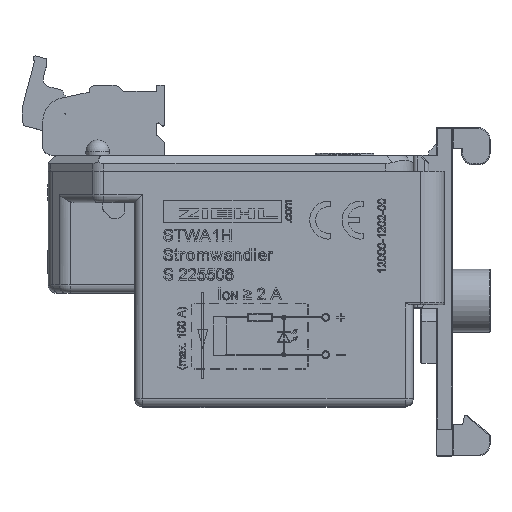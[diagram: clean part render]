
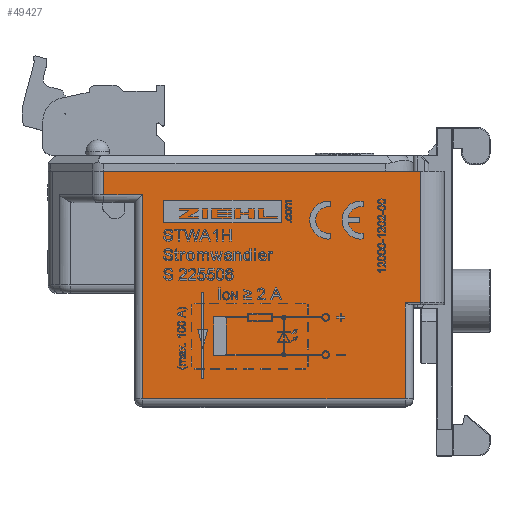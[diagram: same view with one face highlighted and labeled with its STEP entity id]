
A CAD part, top view. The second image highlights one B-rep face of the part: STEP entity #49427.
In plain terms, the highlighted planar face has unit normal (0, 0, 1).
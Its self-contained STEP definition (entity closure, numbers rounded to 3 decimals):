
#494 = ORIENTED_EDGE ( 'NONE', *, *, #3401, .T. ) ;
#3401 = EDGE_CURVE ( 'NONE', #45306, #21515, #4751, .T. ) ;
#4751 = LINE ( 'NONE', #30480, #33828 ) ;
#4880 = VERTEX_POINT ( 'NONE', #51737 ) ;
#6226 = CARTESIAN_POINT ( 'NONE',  ( -3.922, 27., 0. ) ) ;
#7294 = LINE ( 'NONE', #14089, #49978 ) ;
#7372 = DIRECTION ( 'NONE',  ( -1., 0., 0. ) ) ;
#8141 = ORIENTED_EDGE ( 'NONE', *, *, #39471, .F. ) ;
#11805 = CARTESIAN_POINT ( 'NONE',  ( 0., 30., 0. ) ) ;
#13525 = LINE ( 'NONE', #30154, #54408 ) ;
#14089 = CARTESIAN_POINT ( 'NONE',  ( 36.5, 30., 0. ) ) ;
#14119 = ORIENTED_EDGE ( 'NONE', *, *, #22362, .T. ) ;
#15969 = LINE ( 'NONE', #32412, #44984 ) ;
#17005 = CARTESIAN_POINT ( 'NONE',  ( 35.5, 1., 0. ) ) ;
#17669 = EDGE_CURVE ( 'NONE', #20022, #45306, #47574, .T. ) ;
#20022 = VERTEX_POINT ( 'NONE', #56073 ) ;
#20480 = LINE ( 'NONE', #11805, #49539 ) ;
#20519 = DIRECTION ( 'NONE',  ( 1., 0., 0. ) ) ;
#21515 = VERTEX_POINT ( 'NONE', #54681 ) ;
#22084 = EDGE_LOOP ( 'NONE', ( #494, #69474, #64283, #8141, #27255, #42742, #14119, #58854 ) ) ;
#22362 = EDGE_CURVE ( 'NONE', #74745, #20022, #70776, .T. ) ;
#24840 = EDGE_CURVE ( 'NONE', #52463, #69329, #27626, .T. ) ;
#27255 = ORIENTED_EDGE ( 'NONE', *, *, #24840, .T. ) ;
#27626 = LINE ( 'NONE', #60132, #70328 ) ;
#28589 = CARTESIAN_POINT ( 'NONE',  ( 36.5, 13.2, 0. ) ) ;
#30154 = CARTESIAN_POINT ( 'NONE',  ( 0., 27., 0. ) ) ;
#30388 = PLANE ( 'NONE',  #30456 ) ;
#30456 = AXIS2_PLACEMENT_3D ( 'NONE', #36293, #42094, #7372 ) ;
#30480 = CARTESIAN_POINT ( 'NONE',  ( 34.5, 30., 0. ) ) ;
#32412 = CARTESIAN_POINT ( 'NONE',  ( 0., 13.2, 0. ) ) ;
#33828 = VECTOR ( 'NONE', #42189, 1000. ) ;
#33983 = VECTOR ( 'NONE', #74848, 1000. ) ;
#34985 = DIRECTION ( 'NONE',  ( 0., -1., 0. ) ) ;
#36293 = CARTESIAN_POINT ( 'NONE',  ( 0., 30., 0. ) ) ;
#39178 = EDGE_CURVE ( 'NONE', #21515, #68667, #15969, .T. ) ;
#39471 = EDGE_CURVE ( 'NONE', #52463, #4880, #20480, .T. ) ;
#42094 = DIRECTION ( 'NONE',  ( 0., 0., -1. ) ) ;
#42189 = DIRECTION ( 'NONE',  ( 0., 1., 0. ) ) ;
#42742 = ORIENTED_EDGE ( 'NONE', *, *, #48460, .T. ) ;
#43376 = CARTESIAN_POINT ( 'NONE',  ( 34.5, 1., 0. ) ) ;
#44984 = VECTOR ( 'NONE', #20519, 1000. ) ;
#45306 = VERTEX_POINT ( 'NONE', #43376 ) ;
#47574 = LINE ( 'NONE', #17005, #33983 ) ;
#48460 = EDGE_CURVE ( 'NONE', #69329, #74745, #13525, .T. ) ;
#49427 = ADVANCED_FACE ( 'NONE', ( #64197 ), #30388, .F. ) ;
#49539 = VECTOR ( 'NONE', #58223, 1000. ) ;
#49978 = VECTOR ( 'NONE', #54691, 1000. ) ;
#50139 = CARTESIAN_POINT ( 'NONE',  ( -3.922, 30., 0. ) ) ;
#51737 = CARTESIAN_POINT ( 'NONE',  ( 36.5, 30., 0. ) ) ;
#52254 = CARTESIAN_POINT ( 'NONE',  ( 1., 30., 0. ) ) ;
#52463 = VERTEX_POINT ( 'NONE', #50139 ) ;
#54408 = VECTOR ( 'NONE', #65229, 1000. ) ;
#54681 = CARTESIAN_POINT ( 'NONE',  ( 34.5, 13.2, 0. ) ) ;
#54691 = DIRECTION ( 'NONE',  ( 0., 1., 0. ) ) ;
#55004 = EDGE_CURVE ( 'NONE', #68667, #4880, #7294, .T. ) ;
#55351 = VECTOR ( 'NONE', #34985, 1000. ) ;
#56073 = CARTESIAN_POINT ( 'NONE',  ( 1., 1., 0. ) ) ;
#58223 = DIRECTION ( 'NONE',  ( 1., 0., 0. ) ) ;
#58854 = ORIENTED_EDGE ( 'NONE', *, *, #17669, .T. ) ;
#60132 = CARTESIAN_POINT ( 'NONE',  ( -3.922, 26., 0. ) ) ;
#63681 = CARTESIAN_POINT ( 'NONE',  ( 1., 27., 0. ) ) ;
#64197 = FACE_OUTER_BOUND ( 'NONE', #22084, .T. ) ;
#64283 = ORIENTED_EDGE ( 'NONE', *, *, #55004, .T. ) ;
#65229 = DIRECTION ( 'NONE',  ( 1., 0., 0. ) ) ;
#65977 = DIRECTION ( 'NONE',  ( 0., -1., 0. ) ) ;
#68667 = VERTEX_POINT ( 'NONE', #28589 ) ;
#69329 = VERTEX_POINT ( 'NONE', #6226 ) ;
#69474 = ORIENTED_EDGE ( 'NONE', *, *, #39178, .T. ) ;
#70328 = VECTOR ( 'NONE', #65977, 1000. ) ;
#70776 = LINE ( 'NONE', #52254, #55351 ) ;
#74745 = VERTEX_POINT ( 'NONE', #63681 ) ;
#74848 = DIRECTION ( 'NONE',  ( 1., 0., 0. ) ) ;
